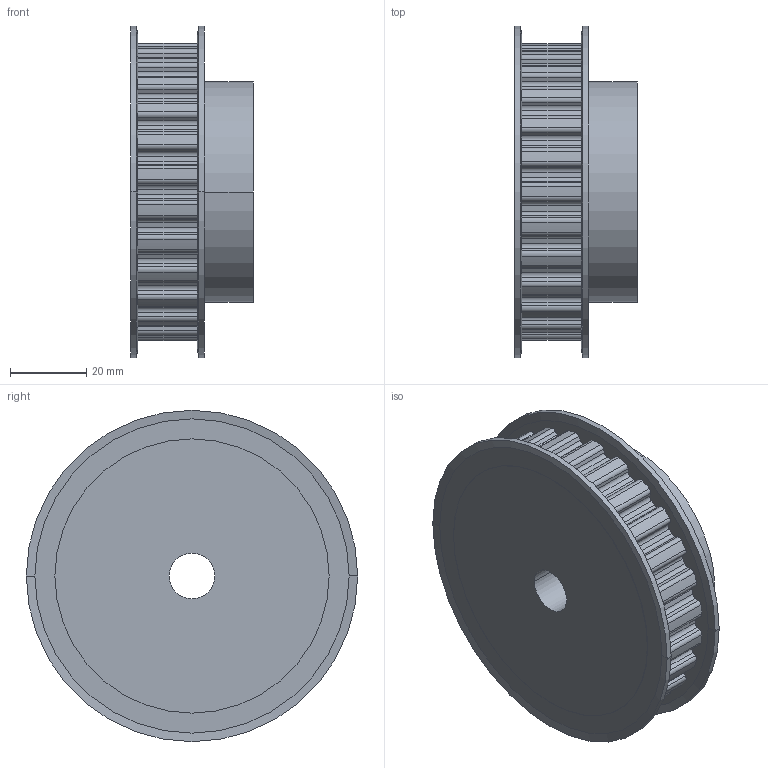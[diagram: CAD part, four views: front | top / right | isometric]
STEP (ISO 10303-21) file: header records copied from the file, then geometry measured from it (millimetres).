
FILE_DESCRIPTION( ( '' ), '1' );
FILE_NAME( 'C:/Users/Stangenbergd/Documents/CAD_Step/1/18212600.stp', '2021-10-19T10:35:29', ( '' ), ( '' ), ' ', ' ', ' ' );
FILE_SCHEMA( ( 'CONFIG_CONTROL_DESIGN' ) );
Length unit declared in the file: millimetre
Products named in the file (1): 1
Bounding box: 32.17 x 87 x 87 mm (x, y, z)
Volume: 120588.5 mm3; surface area: 23968 mm2
Topology: 1 solids, 1 shells, 235 faces, 676 edges, 448 vertices
Faces by surface type: cylinder 142, plane 85, cone 8
Entity records: 7866 total; most frequent: DIRECTION 1440, CARTESIAN_POINT 1360, ORIENTED_EDGE 1352, EDGE_CURVE 676, AXIS2_PLACEMENT_3D 528, VERTEX_POINT 448, LINE 384, VECTOR 384
